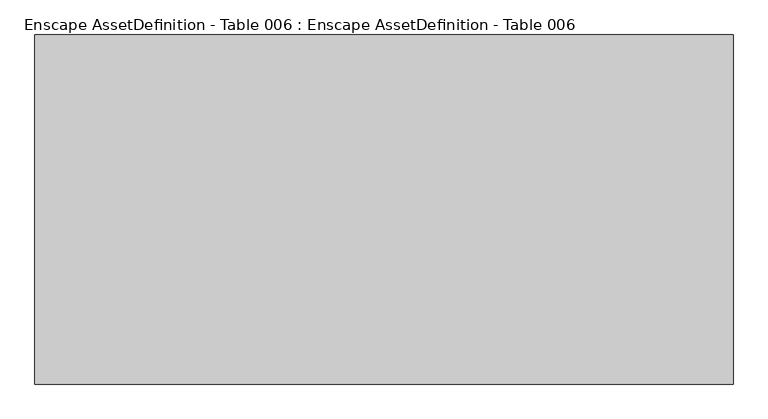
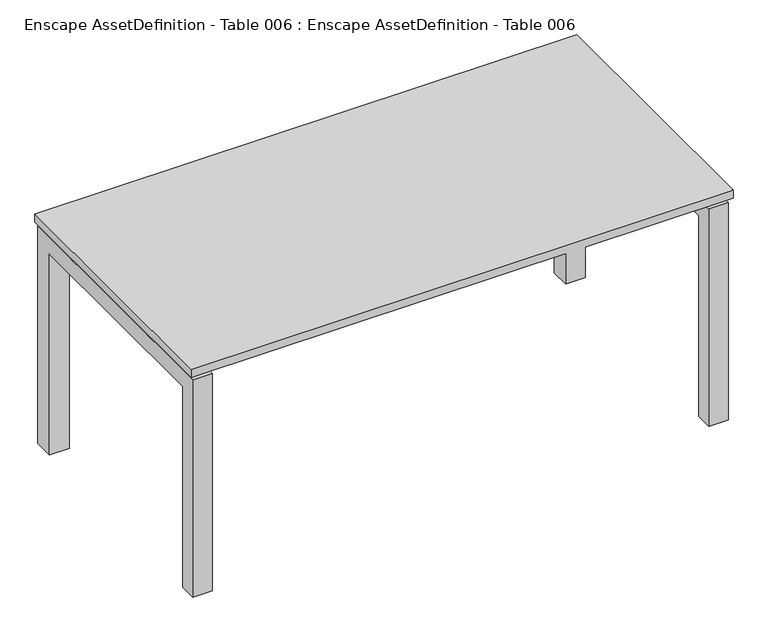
"""IFC4 building model written with IfcOpenShell, lengths in millimetres: geographic element geometry, Enscape AssetDefinition - Table 006 : Enscape AssetDefinition - Table 006."""

from ifc_helpers import new_model, si_unit, origin, place, context, project, spatial, triangles, source, transform, mapped, element, save


def enscape_assetdefinition_table_006_enscape_assetdefinition_bb6dfc44(model_context):
    return source(origin(), model_context, "Body", "Tessellation", [
        triangles([(800.0000788, 400.0000394, 695.0000198), (-799.9998608, -400.0582844, 695.0000925), (800.0000788, -400.0582844, 695.0000925), (-799.9998608, 400.0000394, 695.0000198), (-799.9998608, 400.0000394, 719.9998747), (800.0000788, 400.0000394, 719.9998747), (800.0000788, -400.0582844, 719.9999474), (-799.9998608, -400.0582844, 719.9999474), (791.3083128, 340.9533528, -5.55e-05), (791.3083128, 399.9999304, -6.52e-05), (791.3083128, 340.9534618, 628.4640375), (733.0903547, 400.0000757, 679.0000517), (733.0903547, 340.9533528, -5.55e-05), (733.0903547, 399.9999304, -6.52e-05), (733.0903547, 340.9534618, 628.4640375), (733.0903547, -391.0582523, 679.0002697), (791.3083128, -391.0582523, 679.0002697), (791.3083128, 400.0000757, 679.0000517), (791.3083128, -340.9661064, 628.4641102), (733.0903547, -340.9661064, 628.4641102), (733.0903547, -391.0583977, 6.37e-05), (733.0903547, -340.9662154, 5.56e-05), (791.3083128, -340.9662154, 5.56e-05), (791.3083128, -391.0583977, 6.37e-05), (-733.0903547, 399.9999304, -6.52e-05), (-791.3083128, 399.9999304, -6.52e-05), (-791.3083128, 340.9534618, 628.4640375), (-791.3083128, 400.0000757, 679.0000517), (-791.3083128, -340.9661064, 628.4641102), (-733.0903547, 340.9533528, -5.55e-05), (-733.0903547, 400.0000757, 679.0000517), (-733.0903547, 340.9534618, 628.4640375), (-791.3083128, 340.9533528, -5.55e-05), (-733.0903547, -340.9661064, 628.4641102), (-791.3083128, -391.0582523, 679.0002697), (-791.3083128, -340.9662154, 5.56e-05), (-791.3083128, -391.0583977, 6.37e-05), (-733.0903547, -391.0582523, 679.0002697), (-733.0903547, -391.0583977, 6.37e-05), (-733.0903547, -340.9662154, 5.56e-05)], [[37, 40, 39], [37, 36, 40], [39, 40, 34], [32, 38, 34], [39, 34, 38], [37, 39, 38], [37, 38, 35], [36, 37, 35], [40, 29, 34], [40, 36, 29], [36, 35, 29], [27, 34, 29], [27, 32, 34], [33, 32, 27], [33, 30, 32], [32, 31, 38], [31, 35, 38], [30, 31, 32], [28, 29, 35], [28, 27, 29], [31, 28, 35], [26, 27, 28], [26, 33, 27], [30, 25, 31], [33, 25, 30], [33, 26, 25], [25, 28, 31], [25, 26, 28], [24, 21, 22], [24, 22, 23], [23, 17, 24], [24, 16, 21], [24, 17, 16], [21, 20, 22], [21, 16, 20], [22, 19, 23], [22, 20, 19], [23, 19, 17], [18, 17, 19], [12, 17, 18], [12, 16, 17], [15, 16, 12], [15, 20, 16], [18, 19, 11], [11, 20, 15], [11, 19, 20], [10, 18, 11], [14, 18, 10], [14, 12, 18], [13, 12, 14], [13, 15, 12], [9, 15, 13], [9, 11, 15], [10, 11, 9], [9, 14, 10], [9, 13, 14], [8, 6, 5], [8, 7, 6], [3, 6, 7], [3, 1, 6], [1, 5, 6], [4, 8, 5], [1, 4, 5], [4, 2, 8], [2, 7, 8], [2, 3, 7], [2, 1, 3], [2, 4, 1]]),
    ])


if __name__ == "__main__":
    model = new_model("IFC4")
    model_context = context("Model", 3, world=origin())
    ifc_project = project(units=[si_unit("LENGTHUNIT", "METRE", prefix="MILLI")], contexts=[model_context])
    site = spatial("IfcSite", under=ifc_project)
    building = spatial("IfcBuilding", under=site)
    placement = place(None, origin())
    enscape_assetdefinition_table_006_enscape_assetdefinition_shape = enscape_assetdefinition_table_006_enscape_assetdefinition_bb6dfc44(model_context)
    element("IfcGeographicElement", 1, ObjectType="Enscape AssetDefinition - Table 006 : Enscape AssetDefinition - Table 006", at=placement, inside=building, context=model_context, shape_type="MappedRepresentation", body=[
        mapped(enscape_assetdefinition_table_006_enscape_assetdefinition_shape, transform((0.0, 0.0, 0.0), x_axis=(1.0, 0.0, 0.0), y_axis=(0.0, 1.0, 0.0), z_axis=(0.0, 0.0, 1.0))),
    ])
    save(model, "model.ifc")
